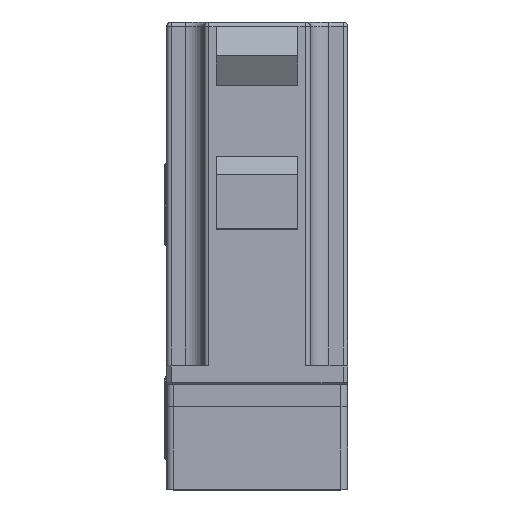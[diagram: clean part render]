
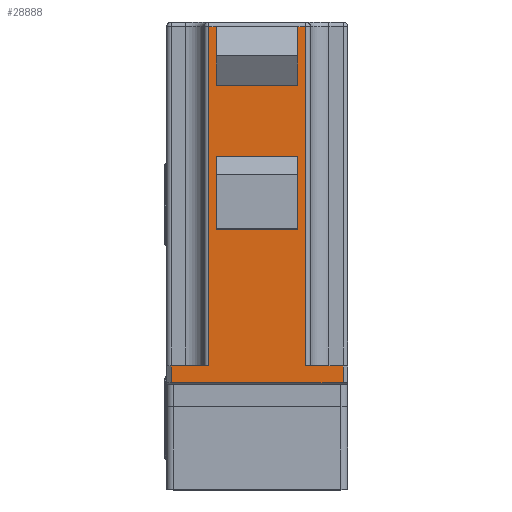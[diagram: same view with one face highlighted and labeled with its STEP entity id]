
A CAD part, top view. The second image highlights one B-rep face of the part: STEP entity #28888.
In plain terms, the highlighted planar face has unit normal (0, 0, 1).
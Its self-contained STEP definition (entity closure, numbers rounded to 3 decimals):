
#692 = CARTESIAN_POINT ( 'NONE',  ( 8., 34.87, 31.724 ) ) ;
#699 = VECTOR ( 'NONE', #10898, 1000. ) ;
#841 = VERTEX_POINT ( 'NONE', #23059 ) ;
#884 = CARTESIAN_POINT ( 'NONE',  ( 68.5, -23.13, 31.724 ) ) ;
#1307 = DIRECTION ( 'NONE',  ( 0., 1., 0. ) ) ;
#1316 = CARTESIAN_POINT ( 'NONE',  ( 160., 16.37, 31.724 ) ) ;
#1457 = CARTESIAN_POINT ( 'NONE',  ( 158., -45.13, 31.724 ) ) ;
#1880 = VERTEX_POINT ( 'NONE', #26126 ) ;
#2013 = VERTEX_POINT ( 'NONE', #9426 ) ;
#2129 = VECTOR ( 'NONE', #42796, 1000. ) ;
#2668 = LINE ( 'NONE', #1316, #10798 ) ;
#2830 = ORIENTED_EDGE ( 'NONE', *, *, #3026, .T. ) ;
#2955 = ORIENTED_EDGE ( 'NONE', *, *, #37896, .F. ) ;
#3026 = EDGE_CURVE ( 'NONE', #34987, #16772, #15938, .T. ) ;
#4193 = DIRECTION ( 'NONE',  ( 0., -1., 0. ) ) ;
#5148 = ORIENTED_EDGE ( 'NONE', *, *, #41847, .T. ) ;
#5283 = VECTOR ( 'NONE', #34296, 1000. ) ;
#5568 = ORIENTED_EDGE ( 'NONE', *, *, #7020, .F. ) ;
#5596 = CARTESIAN_POINT ( 'NONE',  ( 8., 32.87, 31.724 ) ) ;
#6098 = EDGE_CURVE ( 'NONE', #20867, #31528, #39021, .T. ) ;
#6227 = CARTESIAN_POINT ( 'NONE',  ( 68.5, 12.87, 31.724 ) ) ;
#6342 = VERTEX_POINT ( 'NONE', #30149 ) ;
#6672 = FACE_BOUND ( 'NONE', #11127, .T. ) ;
#7020 = EDGE_CURVE ( 'NONE', #42501, #25995, #14470, .T. ) ;
#7153 = CARTESIAN_POINT ( 'NONE',  ( 158., -26.63, 31.724 ) ) ;
#7431 = CARTESIAN_POINT ( 'NONE',  ( 160., -26.63, 31.724 ) ) ;
#7949 = LINE ( 'NONE', #884, #43798 ) ;
#8293 = DIRECTION ( 'NONE',  ( -1., 0., 0. ) ) ;
#9021 = VECTOR ( 'NONE', #22650, 1000. ) ;
#9426 = CARTESIAN_POINT ( 'NONE',  ( 0.5, -43.13, 31.724 ) ) ;
#9683 = VECTOR ( 'NONE', #20953, 1000. ) ;
#9916 = LINE ( 'NONE', #7431, #699 ) ;
#9934 = EDGE_CURVE ( 'NONE', #40427, #20867, #37521, .T. ) ;
#10277 = AXIS2_PLACEMENT_3D ( 'NONE', #22786, #43709, #22925 ) ;
#10798 = VECTOR ( 'NONE', #8293, 1000. ) ;
#10898 = DIRECTION ( 'NONE',  ( 1., 0., 0. ) ) ;
#11127 = EDGE_LOOP ( 'NONE', ( #28289, #32560, #34098, #41691 ) ) ;
#11257 = DIRECTION ( 'NONE',  ( -1., 0., 0. ) ) ;
#12028 = VECTOR ( 'NONE', #23518, 1000. ) ;
#12127 = VERTEX_POINT ( 'NONE', #21093 ) ;
#13160 = EDGE_CURVE ( 'NONE', #22181, #17007, #25326, .T. ) ;
#14180 = ORIENTED_EDGE ( 'NONE', *, *, #36471, .T. ) ;
#14470 = LINE ( 'NONE', #44679, #5283 ) ;
#14757 = EDGE_CURVE ( 'NONE', #41070, #6342, #28869, .T. ) ;
#15385 = VECTOR ( 'NONE', #1307, 1000. ) ;
#15938 = LINE ( 'NONE', #44638, #28943 ) ;
#16471 = VECTOR ( 'NONE', #31064, 1000. ) ;
#16772 = VERTEX_POINT ( 'NONE', #33097 ) ;
#16862 = DIRECTION ( 'NONE',  ( -1., 0., 0. ) ) ;
#17007 = VERTEX_POINT ( 'NONE', #27525 ) ;
#17427 = ORIENTED_EDGE ( 'NONE', *, *, #13160, .F. ) ;
#17476 = DIRECTION ( 'NONE',  ( 0., -1., 0. ) ) ;
#18269 = LINE ( 'NONE', #43413, #9021 ) ;
#18435 = VECTOR ( 'NONE', #4193, 1000. ) ;
#18544 = EDGE_CURVE ( 'NONE', #1880, #12127, #24061, .T. ) ;
#20841 = EDGE_CURVE ( 'NONE', #31528, #841, #7949, .T. ) ;
#20867 = VERTEX_POINT ( 'NONE', #32242 ) ;
#20953 = DIRECTION ( 'NONE',  ( 0., -1., 0. ) ) ;
#21093 = CARTESIAN_POINT ( 'NONE',  ( 158., 16.37, 31.724 ) ) ;
#22050 = CARTESIAN_POINT ( 'NONE',  ( 68.5, 12.87, 31.724 ) ) ;
#22181 = VERTEX_POINT ( 'NONE', #26366 ) ;
#22374 = CARTESIAN_POINT ( 'NONE',  ( 132., 12.87, 31.724 ) ) ;
#22480 = EDGE_CURVE ( 'NONE', #34987, #43080, #45027, .T. ) ;
#22650 = DIRECTION ( 'NONE',  ( 1., 0., 0. ) ) ;
#22786 = CARTESIAN_POINT ( 'NONE',  ( 160., -45.13, 31.724 ) ) ;
#22925 = DIRECTION ( 'NONE',  ( -1., 0., 0. ) ) ;
#23059 = CARTESIAN_POINT ( 'NONE',  ( 100.5, -23.13, 31.724 ) ) ;
#23518 = DIRECTION ( 'NONE',  ( -1., 0., 0. ) ) ;
#23899 = ORIENTED_EDGE ( 'NONE', *, *, #18544, .T. ) ;
#24032 = FACE_OUTER_BOUND ( 'NONE', #31841, .T. ) ;
#24061 = LINE ( 'NONE', #1457, #42517 ) ;
#25326 = LINE ( 'NONE', #41768, #33399 ) ;
#25995 = VERTEX_POINT ( 'NONE', #41556 ) ;
#26013 = VECTOR ( 'NONE', #11257, 1000. ) ;
#26126 = CARTESIAN_POINT ( 'NONE',  ( 158., 12.87, 31.724 ) ) ;
#26366 = CARTESIAN_POINT ( 'NONE',  ( 8., -26.63, 31.724 ) ) ;
#27084 = LINE ( 'NONE', #28539, #26013 ) ;
#27525 = CARTESIAN_POINT ( 'NONE',  ( 8., -43.13, 31.724 ) ) ;
#27605 = CARTESIAN_POINT ( 'NONE',  ( 132., -23.13, 31.724 ) ) ;
#27915 = CARTESIAN_POINT ( 'NONE',  ( 0.5, -43.13, 31.724 ) ) ;
#28289 = ORIENTED_EDGE ( 'NONE', *, *, #9934, .F. ) ;
#28539 = CARTESIAN_POINT ( 'NONE',  ( 132., 12.87, 31.724 ) ) ;
#28869 = LINE ( 'NONE', #40382, #36999 ) ;
#28888 = ADVANCED_FACE ( 'NONE', ( #6672, #24032 ), #40189, .F. ) ;
#28943 = VECTOR ( 'NONE', #16862, 1000. ) ;
#29203 = DIRECTION ( 'NONE',  ( 0., 1., 0. ) ) ;
#30149 = CARTESIAN_POINT ( 'NONE',  ( 158., -23.13, 31.724 ) ) ;
#30237 = EDGE_CURVE ( 'NONE', #2013, #17007, #18269, .T. ) ;
#31064 = DIRECTION ( 'NONE',  ( 1., 0., 0. ) ) ;
#31378 = ORIENTED_EDGE ( 'NONE', *, *, #14757, .T. ) ;
#31528 = VERTEX_POINT ( 'NONE', #33820 ) ;
#31841 = EDGE_LOOP ( 'NONE', ( #40412, #5568, #2955, #23899, #5148, #44756, #2830, #36986, #40880, #17427, #14180, #31378 ) ) ;
#32242 = CARTESIAN_POINT ( 'NONE',  ( 68.5, 12.87, 31.724 ) ) ;
#32512 = CARTESIAN_POINT ( 'NONE',  ( 100.5, 12.87, 31.724 ) ) ;
#32560 = ORIENTED_EDGE ( 'NONE', *, *, #40233, .F. ) ;
#33097 = CARTESIAN_POINT ( 'NONE',  ( 0.5, 32.87, 31.724 ) ) ;
#33287 = EDGE_CURVE ( 'NONE', #16772, #2013, #37342, .T. ) ;
#33399 = VECTOR ( 'NONE', #17476, 1000. ) ;
#33405 = CARTESIAN_POINT ( 'NONE',  ( 100.5, 12.87, 31.724 ) ) ;
#33820 = CARTESIAN_POINT ( 'NONE',  ( 68.5, -23.13, 31.724 ) ) ;
#34098 = ORIENTED_EDGE ( 'NONE', *, *, #20841, .F. ) ;
#34296 = DIRECTION ( 'NONE',  ( 0., -1., 0. ) ) ;
#34894 = LINE ( 'NONE', #32512, #15385 ) ;
#34987 = VERTEX_POINT ( 'NONE', #5596 ) ;
#36339 = EDGE_CURVE ( 'NONE', #25995, #6342, #44167, .T. ) ;
#36471 = EDGE_CURVE ( 'NONE', #22181, #41070, #9916, .T. ) ;
#36986 = ORIENTED_EDGE ( 'NONE', *, *, #33287, .T. ) ;
#36999 = VECTOR ( 'NONE', #43888, 1000. ) ;
#37342 = LINE ( 'NONE', #27915, #9683 ) ;
#37521 = LINE ( 'NONE', #6227, #12028 ) ;
#37896 = EDGE_CURVE ( 'NONE', #1880, #42501, #27084, .T. ) ;
#38935 = DIRECTION ( 'NONE',  ( 1., 0., 0. ) ) ;
#39021 = LINE ( 'NONE', #22050, #2129 ) ;
#40189 = PLANE ( 'NONE',  #10277 ) ;
#40233 = EDGE_CURVE ( 'NONE', #841, #40427, #34894, .T. ) ;
#40382 = CARTESIAN_POINT ( 'NONE',  ( 158., -45.13, 31.724 ) ) ;
#40412 = ORIENTED_EDGE ( 'NONE', *, *, #36339, .F. ) ;
#40427 = VERTEX_POINT ( 'NONE', #33405 ) ;
#40880 = ORIENTED_EDGE ( 'NONE', *, *, #30237, .T. ) ;
#41070 = VERTEX_POINT ( 'NONE', #7153 ) ;
#41556 = CARTESIAN_POINT ( 'NONE',  ( 132., -23.13, 31.724 ) ) ;
#41691 = ORIENTED_EDGE ( 'NONE', *, *, #6098, .F. ) ;
#41768 = CARTESIAN_POINT ( 'NONE',  ( 8., -45.13, 31.724 ) ) ;
#41847 = EDGE_CURVE ( 'NONE', #12127, #43080, #2668, .T. ) ;
#42501 = VERTEX_POINT ( 'NONE', #22374 ) ;
#42517 = VECTOR ( 'NONE', #29203, 1000. ) ;
#42796 = DIRECTION ( 'NONE',  ( 0., -1., 0. ) ) ;
#43080 = VERTEX_POINT ( 'NONE', #43518 ) ;
#43413 = CARTESIAN_POINT ( 'NONE',  ( 160., -43.13, 31.724 ) ) ;
#43518 = CARTESIAN_POINT ( 'NONE',  ( 8., 16.37, 31.724 ) ) ;
#43709 = DIRECTION ( 'NONE',  ( 0., 0., -1. ) ) ;
#43798 = VECTOR ( 'NONE', #38935, 1000. ) ;
#43888 = DIRECTION ( 'NONE',  ( 0., 1., 0. ) ) ;
#44167 = LINE ( 'NONE', #27605, #16471 ) ;
#44638 = CARTESIAN_POINT ( 'NONE',  ( 160., 32.87, 31.724 ) ) ;
#44679 = CARTESIAN_POINT ( 'NONE',  ( 132., 12.87, 31.724 ) ) ;
#44756 = ORIENTED_EDGE ( 'NONE', *, *, #22480, .F. ) ;
#45027 = LINE ( 'NONE', #692, #18435 ) ;
